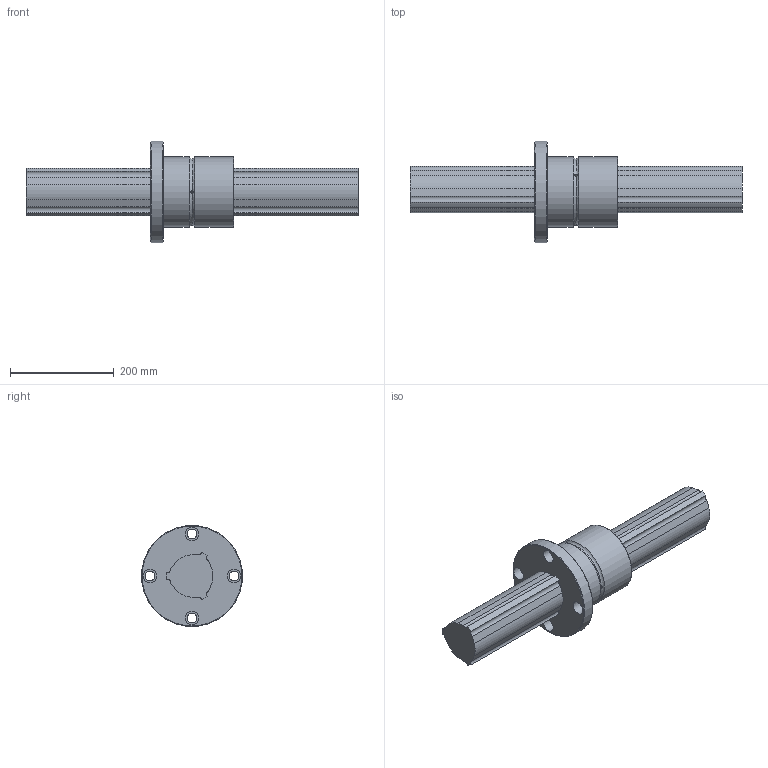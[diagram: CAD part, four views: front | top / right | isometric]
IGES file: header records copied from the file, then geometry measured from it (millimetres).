
Start section: Data from Parasolid IGES Translator 26.0.171, Copyright(c) 2006 Siemens PLM Software. All Rights Reserved.
Global section: file name: LBF100+640L(6402400).igs; native system: By Siemens PLM Incorporated; preprocessor: XPlus GENERIC/IGES 26.0.171; author: Noname; organization: Noname; date: 20240528.034107; units: millimetre
Bounding box: 640 x 195 x 195 mm (x, y, z)
Surface area: 372277.5 mm2 (no closed solid volume)
Topology: 0 solids, 0 shells, 71 faces, 388 edges, 374 vertices
Faces by surface type: revolution 47, extrusion 24
